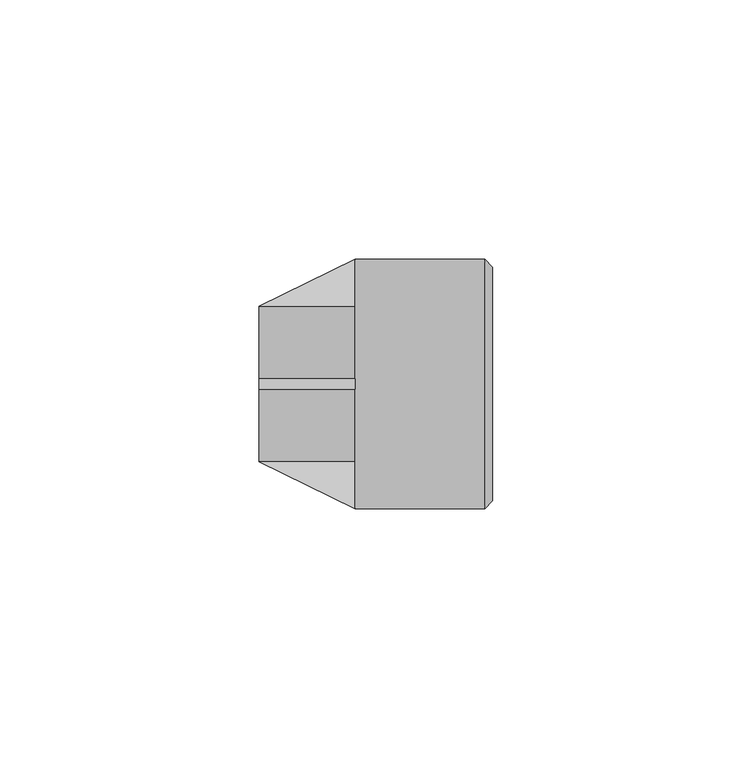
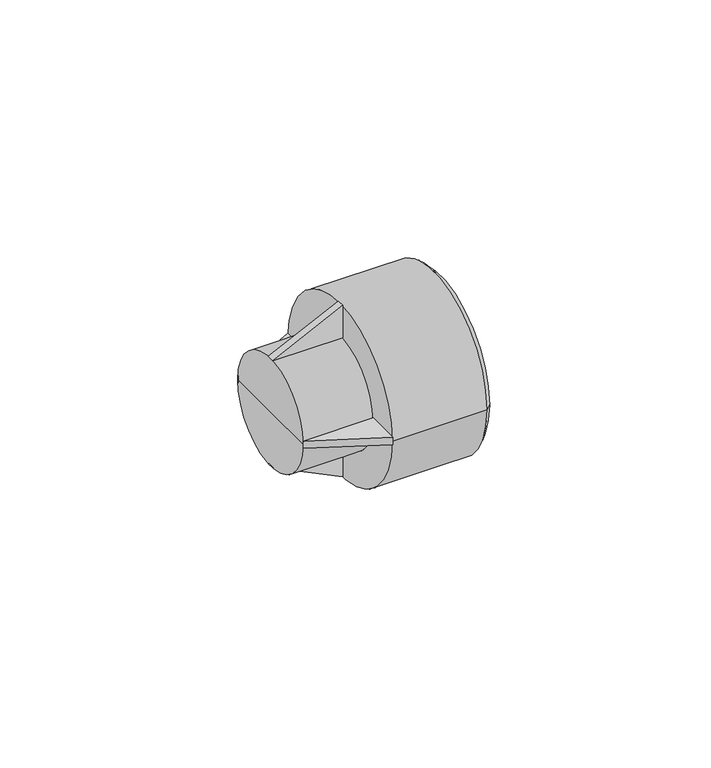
"""IFC4 building model written with IfcOpenShell, lengths in millimetres: pipe fitting geometry, KAN-therm PP mufa gw 3_4 : KAN-therm PP mufa gw 3_4."""

from ifc_helpers import new_model, si_unit, frame, origin, place, context, project, spatial, polyline, circle_curve, outline, extrude, source, transform, mapped, element, save
from ifc_brep_helpers import plane_surface, cylinder_surface, revolved_surface, advanced_brep


def pipe_fitting_26aceb69(model_context):
    return source(origin(), model_context, "Body", "SolidModel", [
        extrude(outline(polyline([(15.0, -14.5), (15.0, 4.0), (24.0, 4.0), (15.0, -14.5)])), frame((0.0, -1.0, 0.0), z_axis=(0.0, 1.0, 0.0), x_axis=(0.0, 0.0, 1.0)), (0.0, 0.0, 1.0), 2.0),
        extrude(outline(polyline([(-15.0, -14.5), (-24.0, 4.0), (-15.0, 4.0), (-15.0, -14.5)])), frame((0.0, -1.0, 0.0), z_axis=(0.0, 1.0, 0.0), x_axis=(0.0, 0.0, 1.0)), (0.0, 0.0, 1.0), 2.0),
        extrude(outline(polyline([(4.0, 15.0), (-14.5, 15.0), (4.0, 24.0), (4.0, 15.0)])), frame((0.0, 0.0, -1.0), z_axis=(0.0, 0.0, 1.0), x_axis=(1.0, 0.0, 0.0)), (0.0, 0.0, 1.0), 2.0),
        extrude(outline(polyline([(-14.5, -15.0), (4.0, -15.0), (4.0, -24.0), (-14.5, -15.0)])), frame((0.0, 0.0, -1.0), z_axis=(0.0, 0.0, 1.0), x_axis=(1.0, 0.0, 0.0)), (0.0, 0.0, 1.0), 2.0),
        advanced_brep(
        [(30.5, -22.5, 0.0), (30.5, 22.5, 0.0), (30.5, 0.0, 0.0), (29.0, -24.0, 0.0), (29.0, 24.0, 0.0), (4.0, -24.0, 0.0), (4.0, 24.0, 0.0), (-14.5, 0.0, 0.0), (-14.5, 15.0, 0.0), (-14.5, -15.0, 0.0), (4.0, -15.0, 0.0), (4.0, 15.0, 0.0)],
        [
            (0, 1, circle_curve(frame((30.5, 0.0, 0.0), z_axis=(1.0, 0.0, 0.0), x_axis=(0.0, 1.0, 0.0)), 22.5)),
            (1, 2),
            (2, 0),
            (1, 0, circle_curve(frame((30.5, 0.0, 0.0), z_axis=(1.0, 0.0, 0.0), x_axis=(0.0, 1.0, 0.0)), 22.5)),
            (3, 4, circle_curve(frame((29.0, 0.0, 0.0), z_axis=(1.0, 0.0, 0.0), x_axis=(0.0, 1.0, 0.0)), 24.0)),
            (4, 1),
            (0, 3),
            (4, 3, circle_curve(frame((29.0, 0.0, 0.0), z_axis=(1.0, 0.0, 0.0), x_axis=(0.0, 1.0, 0.0)), 24.0)),
            (5, 6, circle_curve(frame((4.0, 0.0, 0.0), z_axis=(1.0, 0.0, 0.0), x_axis=(0.0, 1.0, 0.0)), 24.0)),
            (6, 4),
            (3, 5),
            (6, 5, circle_curve(frame((4.0, 0.0, 0.0), z_axis=(1.0, 0.0, 0.0), x_axis=(0.0, 1.0, 0.0)), 24.0)),
            (7, 8),
            (8, 9, circle_curve(frame((-14.5, 0.0, 0.0), z_axis=(-1.0, 0.0, 0.0), x_axis=(0.0, 1.0, 0.0)), 15.0)),
            (9, 7),
            (9, 8, circle_curve(frame((-14.5, 0.0, 0.0), z_axis=(-1.0, 0.0, 0.0), x_axis=(0.0, 1.0, 0.0)), 15.0)),
            (10, 11, circle_curve(frame((4.0, 0.0, 0.0), z_axis=(1.0, 0.0, 0.0), x_axis=(0.0, 1.0, 0.0)), 15.0)),
            (11, 6),
            (5, 10),
            (11, 10, circle_curve(frame((4.0, 0.0, 0.0), z_axis=(1.0, 0.0, 0.0), x_axis=(0.0, 1.0, 0.0)), 15.0)),
            (8, 11),
            (10, 9),
        ],
        [
            plane_surface(frame((30.5, 0.0, 0.0), z_axis=(1.0, 0.0, 0.0), x_axis=(0.0, 1.0, 0.0))),
            revolved_surface(polyline([(30.5, 22.5, 0.0), (29.0, 24.0, 0.0)]), (1344.242668, 0.0, 0.0), (-1.0, 0.0, 0.0)),
            cylinder_surface(frame((1344.242668, 0.0, 0.0), z_axis=(-1.0, 0.0, 0.0), x_axis=(0.0, 1.0, 0.0)), 24.0),
            plane_surface(frame((-14.5, 0.0, 0.0), z_axis=(-1.0, 0.0, 0.0), x_axis=(0.0, 1.0, 0.0))),
            plane_surface(frame((4.0, 0.0, 0.0), z_axis=(-1.0, 0.0, 0.0), x_axis=(0.0, 1.0, 0.0))),
            cylinder_surface(frame((1344.242668, 0.0, 0.0), z_axis=(-1.0, 0.0, 0.0), x_axis=(0.0, 1.0, 0.0)), 15.0),
        ],
        [
            (0, [[1, 2, 3]]),
            (0, [[4, -3, -2]]),
            (1, [[5, 6, -1, 7]]),
            (1, [[8, -7, -4, -6]]),
            (2, [[9, 10, -5, 11]]),
            (2, [[12, -11, -8, -10]]),
            (3, [[13, 14, 15]]),
            (3, [[-15, 16, -13]]),
            (4, [[17, 18, -9, 19]]),
            (4, [[20, -19, -12, -18]]),
            (5, [[-14, 21, -17, 22]]),
            (5, [[-16, -22, -20, -21]]),
        ],
    ),
    ])


if __name__ == "__main__":
    model = new_model("IFC4")
    model_context = context("Model", 3, world=origin())
    ifc_project = project(units=[si_unit("LENGTHUNIT", "METRE", prefix="MILLI")], contexts=[model_context])
    site = spatial("IfcSite", under=ifc_project)
    building = spatial("IfcBuilding", under=site)
    placement = place(None, origin())
    pipe_fitting_shape = pipe_fitting_26aceb69(model_context)
    element("IfcPipeFitting", 1, ObjectType="KAN-therm PP mufa gw 3_4 : KAN-therm PP mufa gw 3_4", at=placement, inside=building, context=model_context, shape_type="MappedRepresentation", body=[
        mapped(pipe_fitting_shape, transform((0.0, 0.0, 0.0), x_axis=(1.0, 0.0, 0.0), y_axis=(0.0, 1.0, 0.0), z_axis=(0.0, 0.0, 1.0))),
    ])
    save(model, "model.ifc")
